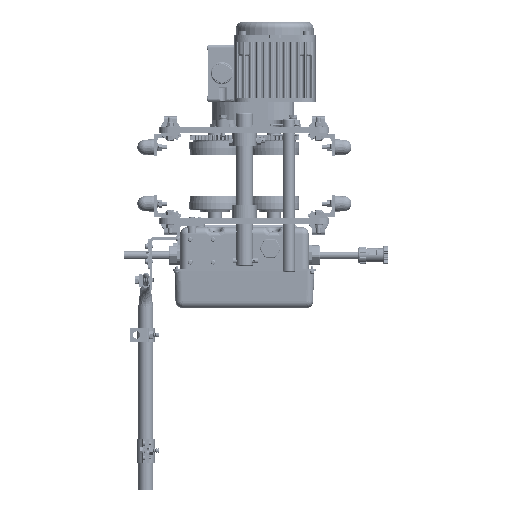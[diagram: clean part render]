
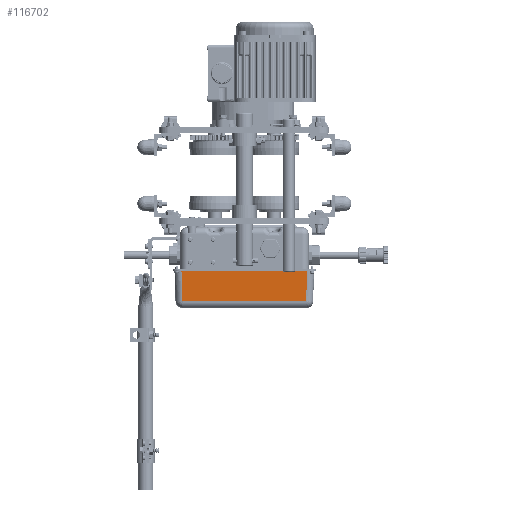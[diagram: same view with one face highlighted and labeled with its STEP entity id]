
A CAD part, front view. The second image highlights one B-rep face of the part: STEP entity #116702.
In plain terms, the highlighted planar face has unit normal (0, -0.999, -0.035) as drawn and (-0.035, -0.999, 0) by its records, which use the part's own axes.
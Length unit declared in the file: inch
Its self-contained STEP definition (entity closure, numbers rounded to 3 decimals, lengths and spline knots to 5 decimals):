
#916 = AXIS2_PLACEMENT_3D ( 'NONE', #16230, #55193, #148224 ) ;
#6517 = CARTESIAN_POINT ( 'NONE',  ( -2.22259, 0.46994, 0.73446 ) ) ;
#8080 = VECTOR ( 'NONE', #44075, 39.37008 ) ;
#13379 = VECTOR ( 'NONE', #46265, 39.37008 ) ;
#16230 = CARTESIAN_POINT ( 'NONE',  ( -1.0803, 0.43005, 10.47244 ) ) ;
#20682 = EDGE_CURVE ( 'NONE', #47789, #80603, #171147, .T. ) ;
#29534 = CARTESIAN_POINT ( 'NONE',  ( -0.03937, 0.3937, 10.47244 ) ) ;
#33016 = LINE ( 'NONE', #29534, #13379 ) ;
#38824 = VECTOR ( 'NONE', #103032, 39.37008 ) ;
#44075 = DIRECTION ( 'NONE',  ( -0.999, 0.035, -0.035 ) ) ;
#46265 = DIRECTION ( 'NONE',  ( 0., 0., -1. ) ) ;
#47789 = VERTEX_POINT ( 'NONE', #146019 ) ;
#54329 = FACE_OUTER_BOUND ( 'NONE', #101628, .T. ) ;
#54751 = LINE ( 'NONE', #110459, #8080 ) ;
#55193 = DIRECTION ( 'NONE',  ( -0.035, -0.999, 0. ) ) ;
#57020 = CARTESIAN_POINT ( 'NONE',  ( -0.03937, 0.3937, 0.65822 ) ) ;
#63871 = ORIENTED_EDGE ( 'NONE', *, *, #160370, .T. ) ;
#63932 = CARTESIAN_POINT ( 'NONE',  ( -2.22259, 0.46994, 10.47244 ) ) ;
#64043 = CARTESIAN_POINT ( 'NONE',  ( -1.42092, 0.44195, 0.70647 ) ) ;
#70480 = VERTEX_POINT ( 'NONE', #74813 ) ;
#74695 = LINE ( 'NONE', #64043, #38824 ) ;
#74813 = CARTESIAN_POINT ( 'NONE',  ( -0.03937, 0.3937, 9.83076 ) ) ;
#80603 = VERTEX_POINT ( 'NONE', #6517 ) ;
#94198 = VECTOR ( 'NONE', #129464, 39.37008 ) ;
#101628 = EDGE_LOOP ( 'NONE', ( #170326, #63871, #117120, #160518 ) ) ;
#103032 = DIRECTION ( 'NONE',  ( 0.999, -0.035, -0.035 ) ) ;
#110459 = CARTESIAN_POINT ( 'NONE',  ( -2.69872, 0.48657, 9.7379 ) ) ;
#116702 = ADVANCED_FACE ( 'NONE', ( #54329 ), #124145, .T. ) ;
#117120 = ORIENTED_EDGE ( 'NONE', *, *, #20682, .T. ) ;
#119418 = VERTEX_POINT ( 'NONE', #57020 ) ;
#124125 = EDGE_CURVE ( 'NONE', #70480, #119418, #33016, .T. ) ;
#124145 = PLANE ( 'NONE',  #916 ) ;
#129464 = DIRECTION ( 'NONE',  ( 0., 0., -1. ) ) ;
#145122 = EDGE_CURVE ( 'NONE', #80603, #119418, #74695, .T. ) ;
#146019 = CARTESIAN_POINT ( 'NONE',  ( -2.22259, 0.46994, 9.75453 ) ) ;
#148224 = DIRECTION ( 'NONE',  ( 0.999, -0.035, 0. ) ) ;
#160370 = EDGE_CURVE ( 'NONE', #70480, #47789, #54751, .T. ) ;
#160518 = ORIENTED_EDGE ( 'NONE', *, *, #145122, .T. ) ;
#170326 = ORIENTED_EDGE ( 'NONE', *, *, #124125, .F. ) ;
#171147 = LINE ( 'NONE', #63932, #94198 ) ;
